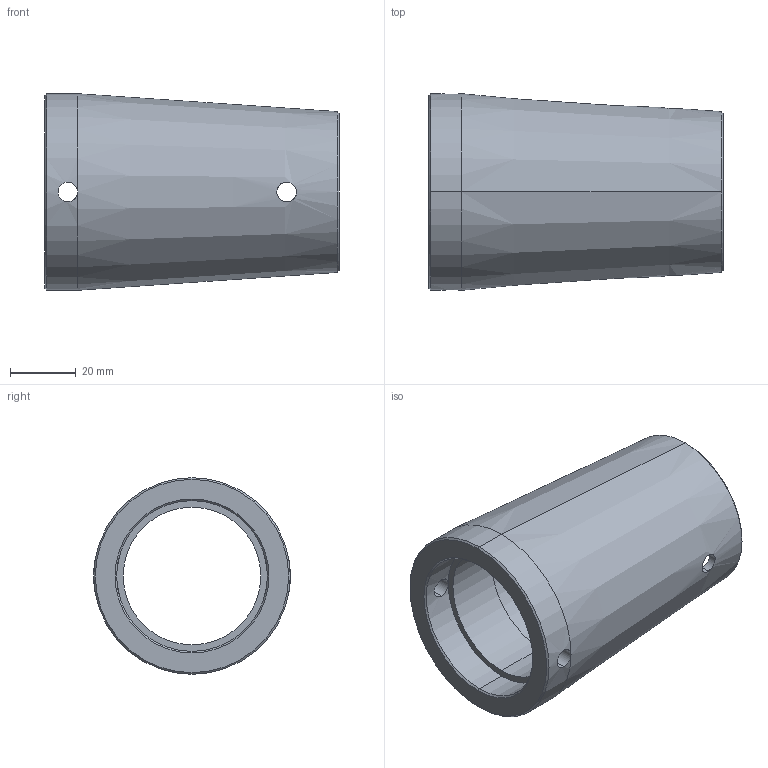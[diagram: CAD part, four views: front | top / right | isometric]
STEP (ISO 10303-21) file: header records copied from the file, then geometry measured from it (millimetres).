
FILE_DESCRIPTION (( 'STEP AP203' ), '1' );
FILE_NAME ('Abdeckhülse M42.STEP', '2018-02-20T06:51:45', ( 'install' ), ( 'Hewlett-Packard Company' ), 'SwSTEP 2.0', 'SolidWorks 2017', '' );
FILE_SCHEMA (( 'CONFIG_CONTROL_DESIGN' ));
Length unit declared in the file: millimetre
Products named in the file (1): Abdeckhülse M42
Bounding box: 89.8 x 60 x 60 mm (x, y, z)
Volume: 79092.6 mm3; surface area: 29869.9 mm2
Topology: 1 solids, 1 shells, 31 faces, 82 edges, 50 vertices
Faces by surface type: cylinder 18, cone 8, plane 5
Entity records: 1531 total; most frequent: CARTESIAN_POINT 684, ORIENTED_EDGE 164, DIRECTION 158, EDGE_CURVE 82, AXIS2_PLACEMENT_3D 66, VERTEX_POINT 50, EDGE_LOOP 38, CIRCLE 34
